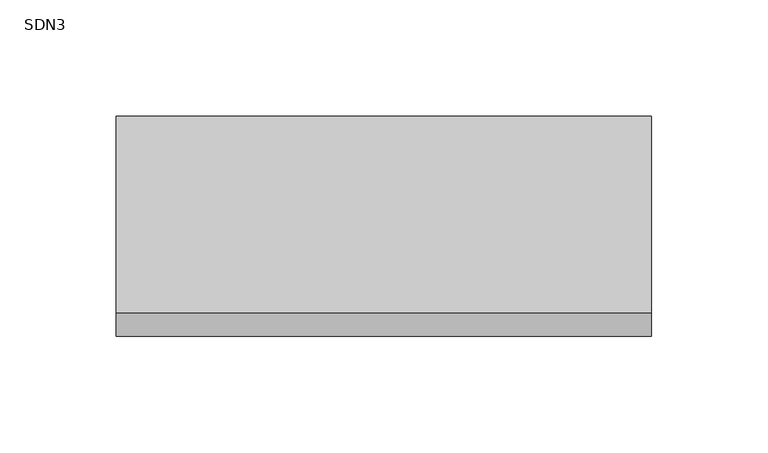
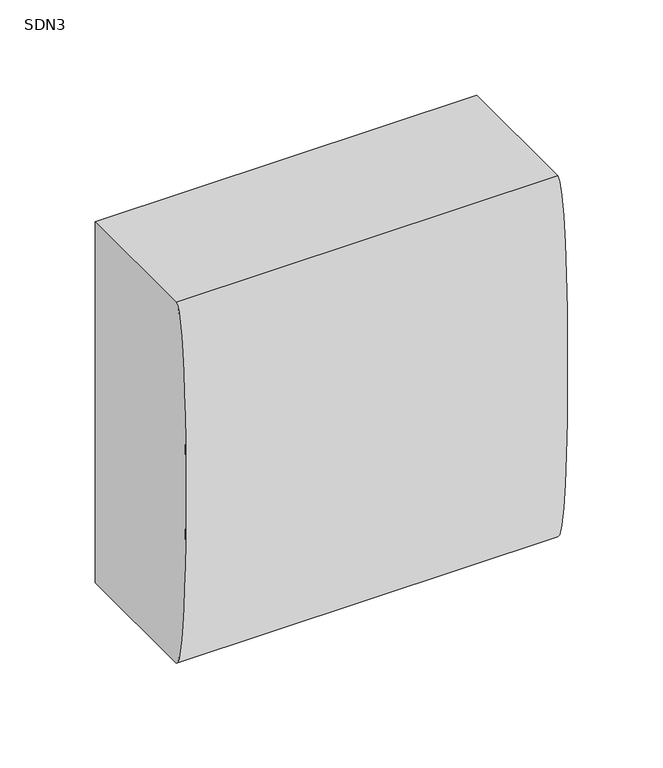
"""IFC4 building model written with IfcOpenShell, lengths in millimetres: proxy geometry, КНС_КоробкаРаспределительнаяSDN_ILC_DKC : SDN3."""

import ifcopenshell
import ifcopenshell.guid

model = None  # the IFC model being written
_history = None  # IfcOwnerHistory: only IFC2X3 demands one
_inside = {}  # id of a spatial element -> (the spatial element, [elements in it])
_under = {}  # id of a project, library or spatial element -> (it, [spatial elements below it])
_declared = {}  # id of a project -> (the project, [libraries it declares])
_typed = {}  # id of a type object -> (the type object, [elements of that type])
_made_of = {}  # id of a material, layer set ... -> (it, [elements and type objects made of it])


def new_model(schema):
    """Start an empty IFC model of exactly this schema.

    Asked for "IFC4X3", IfcOpenShell would pick the latest addendum, in which some entities
    have other attributes; the version numbers below select the first issue.
    IFC2X3 requires an IfcOwnerHistory on every rooted entity: one is made here for all.
    """
    global model, _history
    if schema == "IFC4X3":
        model = ifcopenshell.file(schema_version=(4, 3, 0, 0))
    else:
        model = ifcopenshell.file(schema=schema)
    _inside.clear()
    _under.clear()
    _declared.clear()
    _typed.clear()
    _made_of.clear()
    _history = None
    if model.schema == "IFC2X3":
        org = make("IfcOrganization", Name="unknown")
        user = make(
            "IfcPersonAndOrganization",
            ThePerson=make("IfcPerson", FamilyName="unknown"),
            TheOrganization=org,
        )
        app = make(
            "IfcApplication",
            ApplicationDeveloper=org,
            Version="unknown",
            ApplicationFullName="unknown",
            ApplicationIdentifier="unknown",
        )
        _history = make(
            "IfcOwnerHistory",
            OwningUser=user,
            OwningApplication=app,
            ChangeAction="ADDED",
            CreationDate=0,
        )
    return model


def make(cls, **values):
    """One entity of the class cls with the attributes given. An attribute that is None is left unset."""
    return model.create_entity(
        cls, **{name: value for name, value in values.items() if value is not None}
    )


def rooted(cls, **values):
    """An entity with a GlobalId (a new one), such as an element, a storey or a relation."""
    return make(cls, GlobalId=ifcopenshell.guid.new(), OwnerHistory=_history, **values)


def si_unit(unit_type, name, prefix=None):
    """IfcSIUnit, for example si_unit("LENGTHUNIT", "METRE", prefix="MILLI")."""
    return make("IfcSIUnit", UnitType=unit_type, Prefix=prefix, Name=name)


def assignment(units):
    """IfcUnitAssignment: the units of a project."""
    return None if units is None else make("IfcUnitAssignment", Units=units)


def point(xyz):
    """IfcCartesianPoint."""
    return None if xyz is None else make("IfcCartesianPoint", Coordinates=xyz)


def direction(xyz):
    """IfcDirection."""
    return None if xyz is None else make("IfcDirection", DirectionRatios=xyz)


def frame(location, z_axis=None, x_axis=None):
    """IfcAxis2Placement3D, a coordinate frame: its origin and axes. An axis left out is left unset."""
    return make(
        "IfcAxis2Placement3D",
        Location=point(location),
        Axis=direction(z_axis),
        RefDirection=direction(x_axis),
    )


def origin():
    """The frame at (0, 0, 0) with its axes left unset."""
    return frame((0.0, 0.0, 0.0))


def place(relative_to, where):
    """IfcLocalPlacement: puts the frame where relative to a parent placement (None: the world)."""
    return make(
        "IfcLocalPlacement", PlacementRelTo=relative_to, RelativePlacement=where
    )


def context(
    kind, dimensions, precision=None, world=None, true_north=None, identifier=None
):
    """IfcGeometricRepresentationContext, for example the 3D "Model" context."""
    return make(
        "IfcGeometricRepresentationContext",
        ContextIdentifier=identifier,
        ContextType=kind,
        CoordinateSpaceDimension=dimensions,
        Precision=precision,
        WorldCoordinateSystem=world,
        TrueNorth=true_north,
    )


def project(units=None, contexts=None):
    """IfcProject with its units and contexts."""
    return rooted(
        "IfcProject",
        Name="project",
        RepresentationContexts=contexts,
        UnitsInContext=assignment(units),
    )


def spatial(cls, under=None, at=None, **own):
    """A site, building, storey or space (cls), placed at a placement, below another one or the project."""
    s = rooted(cls, ObjectPlacement=at, **own)
    if under is not None:
        _under.setdefault(under.id(), (under, []))[1].append(s)
    return s


def ellipse_curve(where, semi_axis1, semi_axis2):
    """IfcEllipse in the frame where."""
    return make(
        "IfcEllipse", Position=where, SemiAxis1=semi_axis1, SemiAxis2=semi_axis2
    )


def trimmed(basis, trim1, trim2, sense, master):
    """IfcTrimmedCurve: the piece of a basis curve between two trims."""
    return make(
        "IfcTrimmedCurve",
        BasisCurve=basis,
        Trim1=trim1,
        Trim2=trim2,
        SenseAgreement=sense,
        MasterRepresentation=master,
    )


def shape(context_of_items, identifier, shape_type, items):
    """IfcShapeRepresentation: the items that make up one representation, for example the "Body"."""
    return make(
        "IfcShapeRepresentation",
        ContextOfItems=context_of_items,
        RepresentationIdentifier=identifier,
        RepresentationType=shape_type,
        Items=items,
    )


def source(mapping_origin, context_of_items, identifier, shape_type, items):
    """IfcRepresentationMap: a shape defined once, which mapped items show again and again."""
    return make(
        "IfcRepresentationMap",
        MappingOrigin=mapping_origin,
        MappedRepresentation=shape(context_of_items, identifier, shape_type, items),
    )


def transform(
    local_origin,
    x_axis=None,
    y_axis=None,
    z_axis=None,
    scale=None,
    scale2=None,
    scale3=None,
    uniform=True,
):
    """IfcCartesianTransformationOperator3D, or its non-uniform kind. x_axis, y_axis, z_axis: its Axis1, 2, 3."""
    if uniform:
        return make(
            "IfcCartesianTransformationOperator3D",
            Axis1=direction(x_axis),
            Axis2=direction(y_axis),
            LocalOrigin=point(local_origin),
            Scale=scale,
            Axis3=direction(z_axis),
        )
    return make(
        "IfcCartesianTransformationOperator3DnonUniform",
        Axis1=direction(x_axis),
        Axis2=direction(y_axis),
        LocalOrigin=point(local_origin),
        Scale=scale,
        Axis3=direction(z_axis),
        Scale2=scale2,
        Scale3=scale3,
    )


def mapped(mapping_source, mapping_target):
    """IfcMappedItem: shows the shape of a source again, moved by a transform."""
    return make(
        "IfcMappedItem", MappingSource=mapping_source, MappingTarget=mapping_target
    )


def made_of(thing, what):
    """Note that an element or type object is made of a material, layer set ...; save() writes the relation."""
    if what is not None:
        _made_of.setdefault(what.id(), (what, []))[1].append(thing)
    return thing


def element(
    cls,
    number,
    at=None,
    inside=None,
    cuts=None,
    type_object=None,
    material=None,
    context=None,
    identifier="Body",
    shape_type=None,
    held_by="IfcProductDefinitionShape",
    body=None,
    shapes=None,
    **own,
):
    """One element of the class cls, such as IfcWall. Its Tag is "e" and its number.

    at: its placement. inside: the storey or other place that contains it. cuts: it is an
    opening in that element (IfcRelVoidsElement). A single representation is given by context,
    identifier, shape_type and body (its items); several are given by shapes. held_by: the class
    of the entity that holds the representations. save() writes the other relations.
    """
    e = rooted(cls, Tag="e%d" % number, ObjectPlacement=at, **own)
    if body is not None:
        shapes = [shape(context, identifier, shape_type, body)]
    if shapes is not None:
        e.Representation = make(held_by, Representations=shapes)
    if inside is not None:
        _inside.setdefault(inside.id(), (inside, []))[1].append(e)
    if cuts is not None:
        rooted(
            "IfcRelVoidsElement", RelatingBuildingElement=cuts, RelatedOpeningElement=e
        )
    if type_object is not None:
        _typed.setdefault(type_object.id(), (type_object, []))[1].append(e)
    return made_of(e, material)


def aggregate(whole, parts):
    """IfcRelAggregates: a whole, such as a stair, and the parts it consists of."""
    return rooted("IfcRelAggregates", RelatingObject=whole, RelatedObjects=parts)


def save(model, path):
    """Write the relations noted so far, then the file.

    IfcRelAggregates (storeys below a building ...), IfcRelContainedInSpatialStructure (elements
    in a storey), IfcRelDefinesByType, IfcRelAssociatesMaterial and IfcRelDeclares: one each for
    every whole, place, type object, material and project.
    """
    for whole, parts in _under.values():
        aggregate(whole, parts)
    for where, things in _inside.values():
        rooted(
            "IfcRelContainedInSpatialStructure",
            RelatedElements=things,
            RelatingStructure=where,
        )
    for kind, things in _typed.values():
        rooted("IfcRelDefinesByType", RelatedObjects=things, RelatingType=kind)
    for what, things in _made_of.values():
        rooted("IfcRelAssociatesMaterial", RelatedObjects=things, RelatingMaterial=what)
    for by, libraries in _declared.values():
        rooted("IfcRelDeclares", RelatingContext=by, RelatedDefinitions=libraries)
    model.write(path)


def plane_surface(at):
    """IfcPlane: the flat surface through the origin of the frame at, square to its z axis."""
    return make("IfcPlane", Position=at)


def extruded_surface(curve, direction_of_extrusion, depth):
    """IfcSurfaceOfLinearExtrusion: the curve pushed along a direction by depth."""
    return make(
        "IfcSurfaceOfLinearExtrusion",
        SweptCurve=make("IfcArbitraryOpenProfileDef", ProfileType="CURVE", Curve=curve),
        ExtrudedDirection=direction(direction_of_extrusion),
        Depth=depth,
    )


def advanced_brep(points, edges, surfaces, faces):
    """IfcAdvancedBrep: a solid bounded by faces that lie on surfaces and meet in shared edges.

    An edge is (start, end): straight between two places in points (the first is 0);
    or (start, end, curve); or (start, end, curve, False) where it runs against its curve.
    A face is (place in surfaces, loops), or (place, loops, False) where it looks against
    its surface's normal. A loop lists edges by number (the first is 1), with a minus sign
    where the edge is run from its end to its start. The first loop is the outer one.
    """
    corners = [point(p) for p in points]
    vertices = [make("IfcVertexPoint", VertexGeometry=c) for c in corners]
    made = []
    for start, end, *more in edges:
        made.append(
            make(
                "IfcEdgeCurve",
                EdgeStart=vertices[start],
                EdgeEnd=vertices[end],
                EdgeGeometry=more[0] if more else make("IfcPolyline", Points=[corners[start], corners[end]]),
                SameSense=more[1] if len(more) > 1 else True,
            )
        )
    hull = []
    for where, loops, *sense in faces:
        bounds = []
        for j, loop in enumerate(loops):
            ring = [make("IfcOrientedEdge", EdgeElement=made[abs(k) - 1], Orientation=k > 0) for k in loop]
            bounds.append(
                make(
                    "IfcFaceOuterBound" if j == 0 else "IfcFaceBound",
                    Bound=make("IfcEdgeLoop", EdgeList=ring),
                    Orientation=True,
                )
            )
        hull.append(make("IfcAdvancedFace", Bounds=bounds, FaceSurface=surfaces[where], SameSense=sense[0] if sense else True))
    return make("IfcAdvancedBrep", Outer=make("IfcClosedShell", CfsFaces=hull))


def sdn3_be96d865(model_context):
    return source(origin(), model_context, "Body", "AdvancedBrep", [
        advanced_brep(
        [(115.5, -85.0, 115.5), (115.5, -85.0, -115.5), (115.5, 0.0, -115.5), (115.5, 0.0, 115.5), (-115.5, -85.0, 115.5), (-115.5, 0.0, 115.5), (-115.5, 0.0, -115.5), (-115.5, -85.0, -115.5)],
        [
            (0, 1, ellipse_curve(frame((115.5, -85.0, 0.0), z_axis=(1.0, 0.0, 0.0), x_axis=(0.0, 0.0, -1.0)), 115.5, 10.0)),
            (1, 2),
            (2, 3),
            (3, 0),
            (4, 5),
            (5, 6),
            (6, 7),
            (7, 4, ellipse_curve(frame((-115.5, -85.0, 0.0), z_axis=(-1.0, 0.0, 0.0), x_axis=(0.0, 0.0, -1.0)), 115.5, 10.0)),
            (0, 4),
            (7, 1),
            (6, 2),
            (5, 3),
        ],
        [
            plane_surface(frame((115.5, -85.0, -115.5), z_axis=(1.0, 0.0, 0.0), x_axis=(0.0, 1.0, 0.0))),
            plane_surface(frame((-115.5, -85.0, -115.5), z_axis=(-1.0, 0.0, 0.0), x_axis=(0.0, -1.0, 0.0))),
            extruded_surface(trimmed(ellipse_curve(frame((-346.5, -85.0, 0.0), z_axis=(1.0, 0.0, 0.0), x_axis=(0.0, 0.0, -1.0)), 115.5, 10.0), [point((-346.5, -85.0, 115.5))], [point((-346.5, -85.0, -115.5))], True, "CARTESIAN"), (231.0, 0.0, 0.0), 231.0),
            plane_surface(frame((115.5, -85.0, -115.5), z_axis=(0.0, 0.0, -1.0), x_axis=(-1.0, 0.0, 0.0))),
            plane_surface(frame((115.5, 0.0, -115.5), z_axis=(0.0, 1.0, 0.0), x_axis=(-1.0, 0.0, 0.0))),
            plane_surface(frame((115.5, 0.0, 115.5), z_axis=(0.0, 0.0, 1.0), x_axis=(-1.0, 0.0, 0.0))),
        ],
        [
            (0, [[1, 2, 3, 4]]),
            (1, [[5, 6, 7, 8]]),
            (2, [[-1, 9, -8, 10]]),
            (3, [[-2, -10, -7, 11]]),
            (4, [[-3, -11, -6, 12]]),
            (5, [[-4, -12, -5, -9]]),
        ],
    ),
    ])


if __name__ == "__main__":
    model = new_model("IFC4")
    model_context = context("Model", 3, world=origin())
    ifc_project = project(units=[si_unit("LENGTHUNIT", "METRE", prefix="MILLI")], contexts=[model_context])
    site = spatial("IfcSite", under=ifc_project)
    building = spatial("IfcBuilding", under=site)
    placement = place(None, origin())
    sdn3_shape = sdn3_be96d865(model_context)
    element("IfcBuildingElementProxy", 1, Name="КНС_КоробкаРаспределительнаяSDN_ILC_DKC : SDN3", ObjectType="КНС_КоробкаРаспределительнаяSDN_ILC_DKC : SDN3", at=placement, inside=building, context=model_context, shape_type="MappedRepresentation", body=[
        mapped(sdn3_shape, transform((0.0, 0.0, 0.0), x_axis=(1.0, 0.0, 0.0), y_axis=(0.0, 1.0, 0.0), z_axis=(0.0, 0.0, 1.0))),
    ])
    save(model, "model.ifc")
